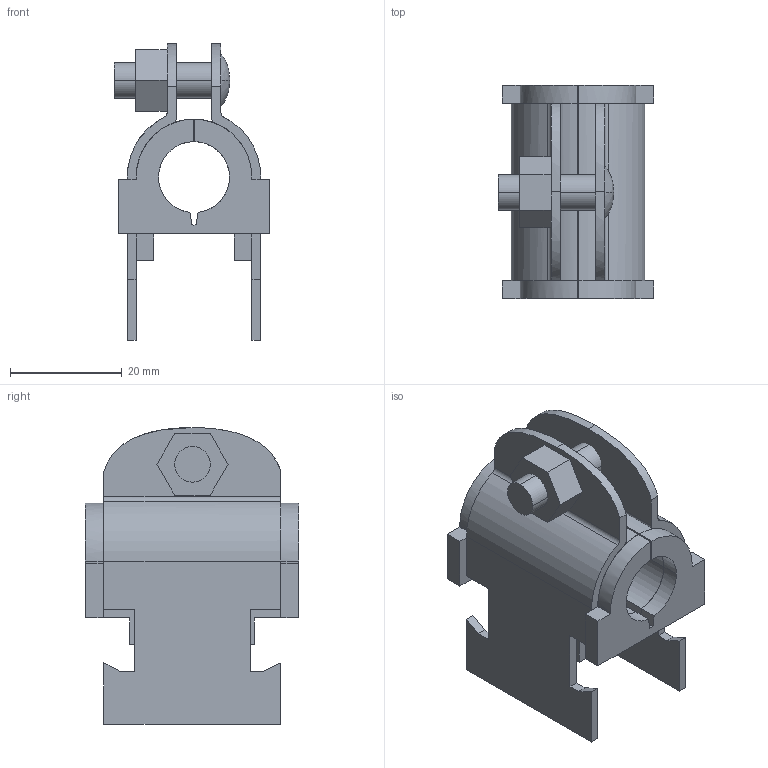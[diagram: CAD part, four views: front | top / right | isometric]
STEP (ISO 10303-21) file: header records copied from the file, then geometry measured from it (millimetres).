
FILE_DESCRIPTION(('TurboCAD Mac Pro'),'Build 980');
FILE_NAME('008N012.stp',' ',(''),(''),'ACIS Interop','IMSI','TurboCAD Mac Pro BY IMSI, INCORPORATED');
FILE_SCHEMA(('automotive_design'));
Length unit declared in the file: inch
Products named in the file (5): 1; 2; 3; 4; 5
Bounding box: 27.74 x 38.1 x 53.08 mm (x, y, z)
Volume: 16763.7 mm3; surface area: 14079.4 mm2
Topology: 5 solids, 5 shells, 140 faces, 375 edges, 246 vertices
Faces by surface type: plane 98, bspline 42
Entity records: 7870 total; most frequent: CARTESIAN_POINT 1710, ORIENTED_EDGE 750, DIRECTION 495, STYLED_ITEM 490, PRESENTATION_STYLE_ASSIGNMENT 490, COLOUR_RGB 490, EDGE_CURVE 375, CURVE_STYLE 345
